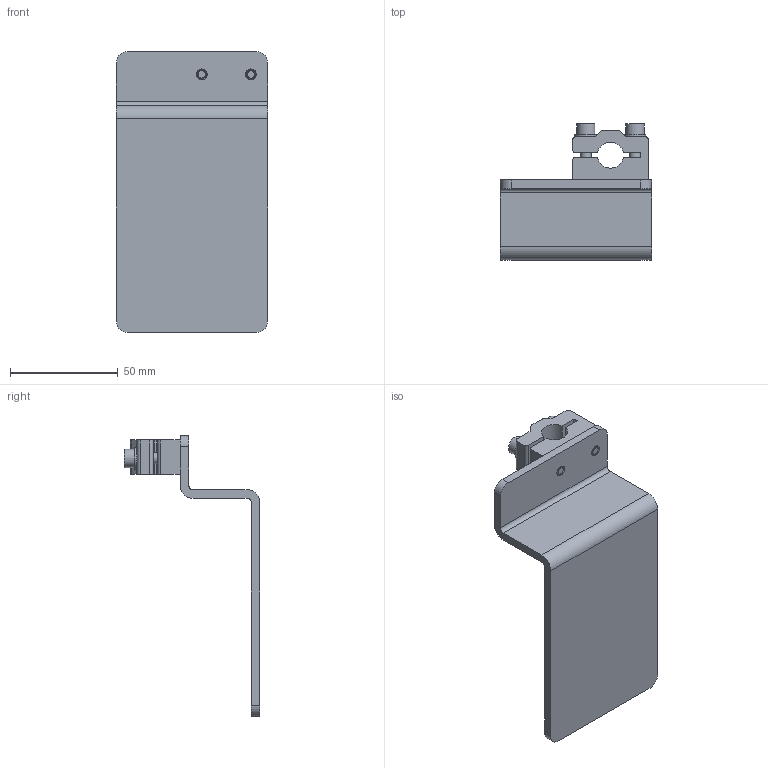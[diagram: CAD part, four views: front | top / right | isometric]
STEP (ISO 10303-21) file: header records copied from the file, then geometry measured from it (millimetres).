
FILE_DESCRIPTION(/* description */ (''),/* implementation_level */ '2;1');
FILE_NAME(/* name */ '3D_btp300m_d12.stp',/* time_stamp */ '2012-04-23T10:12:41+02:00',/* author */ (''),/* organization */ (''),/* preprocessor_version */ 'ST-DEVELOPER v11',/* originating_system */ 'SIEMENS UGS NX 6.0',/* authorisation */ '');
FILE_SCHEMA (('AUTOMOTIVE_DESIGN { 1 0 10303 214 1 1 1 1 }'));
Length unit declared in the file: millimetre
Products named in the file (5): 002333_00.0; 002362_B; 50029688_1_00.0; 002136_00.0; 002987_00.0
Assembly tree (6 placements, depth 2):
  002987_00.0
    002136_00.0  x2
    50029688_1_00.0  x2
    002362_B
    002333_00.0
Bounding box: 70 x 63 x 130 mm (x, y, z)
Volume: 54423.3 mm3; surface area: 30310.9 mm2
Topology: 6 solids, 6 shells, 92 faces, 236 edges, 156 vertices
Faces by surface type: plane 48, cylinder 34, cone 8, torus 2
Full cylindrical faces by diameter (mm): 4.2 x2, 5 x2, 5.3 x6, 8.5 x2, 10 x2
Entity records: 2366 total; most frequent: CARTESIAN_POINT 422, DIRECTION 394, ORIENTED_EDGE 348, EDGE_CURVE 174, AXIS2_PLACEMENT_3D 147, VERTEX_POINT 125, EDGE_LOOP 104, LINE 100
